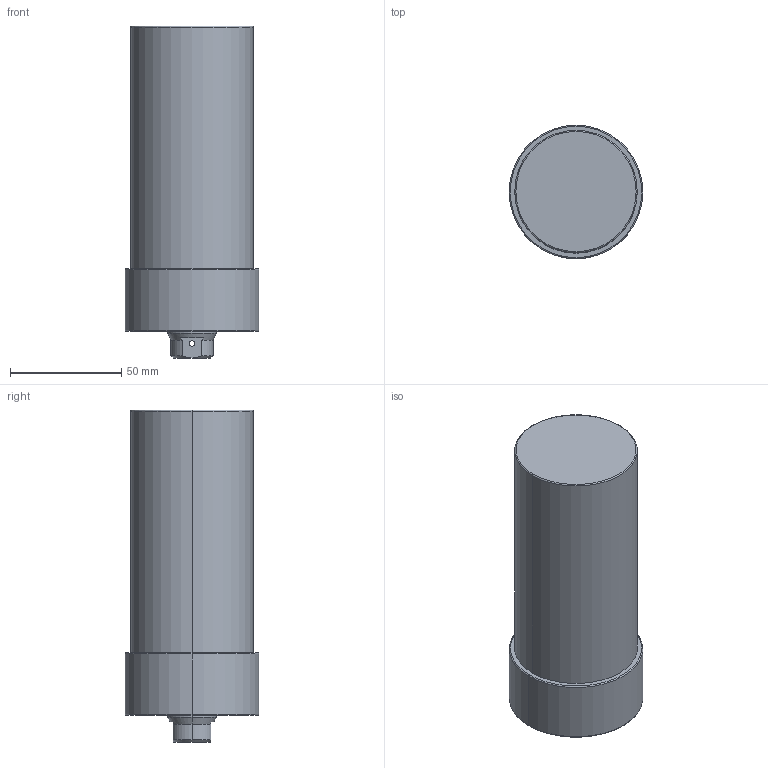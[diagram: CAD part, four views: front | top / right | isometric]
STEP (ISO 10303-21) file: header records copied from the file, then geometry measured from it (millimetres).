
FILE_DESCRIPTION (( 'STEP AP203' ), '1' );
FILE_NAME ('CLLU055-CB-080.STEP', '2017-05-15T08:15:55', ( '' ), ( '' ), 'SwSTEP 2.0', 'SolidWorks 2015', '' );
FILE_SCHEMA (( 'CONFIG_CONTROL_DESIGN' ));
Length unit declared in the file: millimetre
Products named in the file (1): CLLU055-CB-080
Bounding box: 60 x 60 x 149 mm (x, y, z)
Volume: 338424.2 mm3; surface area: 32205 mm2
Topology: 1 solids, 1 shells, 68 faces, 155 edges, 88 vertices
Faces by surface type: cylinder 27, cone 25, plane 10, torus 6
Entity records: 2021 total; most frequent: CARTESIAN_POINT 422, DIRECTION 350, ORIENTED_EDGE 290, AXIS2_PLACEMENT_3D 148, EDGE_CURVE 145, VERTEX_POINT 88, EDGE_LOOP 81, CIRCLE 79
